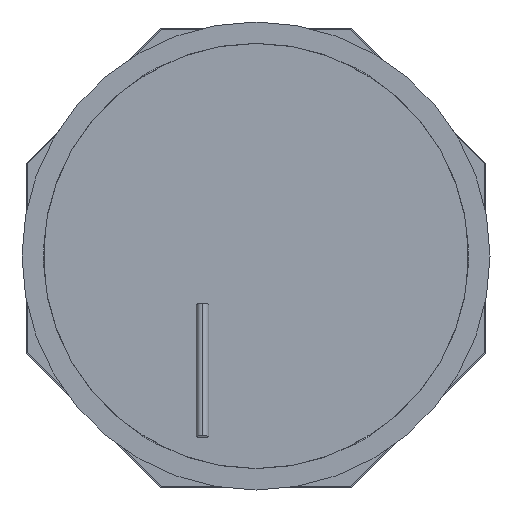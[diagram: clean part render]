
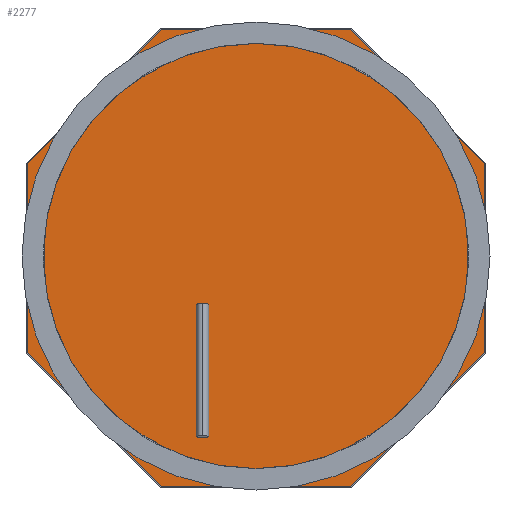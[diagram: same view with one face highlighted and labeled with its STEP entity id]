
A CAD part, front view. The second image highlights one B-rep face of the part: STEP entity #2277.
In plain terms, the highlighted planar face has unit normal (0, -1, 0).
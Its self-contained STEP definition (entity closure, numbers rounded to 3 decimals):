
#1899=DIRECTION('',(0.,0.,1.));
#1900=VECTOR('',#1899,353.738);
#1901=CARTESIAN_POINT('',(427.,52.,-180.869));
#1902=LINE('',#1901,#1900);
#1907=DIRECTION('',(0.707,0.,-0.707));
#1908=VECTOR('',#1907,353.738);
#1909=CARTESIAN_POINT('',(-427.,52.,-180.869));
#1910=LINE('',#1909,#1908);
#1915=DIRECTION('',(1.,0.,0.));
#1916=VECTOR('',#1915,353.738);
#1917=CARTESIAN_POINT('',(-176.869,52.,-431.));
#1918=LINE('',#1917,#1916);
#1923=DIRECTION('',(0.707,0.,0.707));
#1924=VECTOR('',#1923,353.738);
#1925=CARTESIAN_POINT('',(176.869,52.,-431.));
#1926=LINE('',#1925,#1924);
#2125=DIRECTION('',(-0.707,0.,0.707));
#2126=VECTOR('',#2125,353.738);
#2127=CARTESIAN_POINT('',(427.,52.,172.869));
#2128=LINE('',#2127,#2126);
#2133=DIRECTION('',(-1.,0.,0.));
#2134=VECTOR('',#2133,353.738);
#2135=CARTESIAN_POINT('',(176.869,52.,423.));
#2136=LINE('',#2135,#2134);
#2141=DIRECTION('',(-0.707,0.,-0.707));
#2142=VECTOR('',#2141,353.738);
#2143=CARTESIAN_POINT('',(-176.869,52.,423.));
#2144=LINE('',#2143,#2142);
#2149=DIRECTION('',(0.,0.,-1.));
#2150=VECTOR('',#2149,353.738);
#2151=CARTESIAN_POINT('',(-427.,52.,172.869));
#2152=LINE('',#2151,#2150);
#2205=CARTESIAN_POINT('',(-427.,52.,-180.869));
#2206=CARTESIAN_POINT('',(-176.869,52.,-431.));
#2207=VERTEX_POINT('',#2205);
#2208=VERTEX_POINT('',#2206);
#2209=CARTESIAN_POINT('',(176.869,52.,-431.));
#2210=VERTEX_POINT('',#2209);
#2211=CARTESIAN_POINT('',(427.,52.,-180.869));
#2212=VERTEX_POINT('',#2211);
#2213=CARTESIAN_POINT('',(427.,52.,172.869));
#2214=VERTEX_POINT('',#2213);
#2215=CARTESIAN_POINT('',(176.869,52.,423.));
#2216=VERTEX_POINT('',#2215);
#2217=CARTESIAN_POINT('',(-176.869,52.,423.));
#2218=VERTEX_POINT('',#2217);
#2219=CARTESIAN_POINT('',(-427.,52.,172.869));
#2220=VERTEX_POINT('',#2219);
#2255=CARTESIAN_POINT('',(0.,52.,0.));
#2256=DIRECTION('',(0.,1.,0.));
#2257=DIRECTION('',(1.,0.,0.));
#2258=AXIS2_PLACEMENT_3D('',#2255,#2256,#2257);
#2259=PLANE('',#2258);
#2261=ORIENTED_EDGE('',*,*,#2260,.F.);
#2263=ORIENTED_EDGE('',*,*,#2262,.F.);
#2265=ORIENTED_EDGE('',*,*,#2264,.F.);
#2267=ORIENTED_EDGE('',*,*,#2266,.F.);
#2269=ORIENTED_EDGE('',*,*,#2268,.F.);
#2270=ORIENTED_EDGE('',*,*,#2244,.F.);
#2272=ORIENTED_EDGE('',*,*,#2271,.F.);
#2274=ORIENTED_EDGE('',*,*,#2273,.F.);
#2275=EDGE_LOOP('',(#2261,#2263,#2265,#2267,#2269,#2270,#2272,#2274));
#2276=FACE_OUTER_BOUND('',#2275,.F.);
#2277=ADVANCED_FACE('',(#2276),#2259,.F.);
#2244=EDGE_CURVE('',#2212,#2214,#1902,.T.);
#2260=EDGE_CURVE('',#2207,#2208,#1910,.T.);
#2262=EDGE_CURVE('',#2220,#2207,#2152,.T.);
#2264=EDGE_CURVE('',#2218,#2220,#2144,.T.);
#2266=EDGE_CURVE('',#2216,#2218,#2136,.T.);
#2268=EDGE_CURVE('',#2214,#2216,#2128,.T.);
#2271=EDGE_CURVE('',#2210,#2212,#1926,.T.);
#2273=EDGE_CURVE('',#2208,#2210,#1918,.T.);
